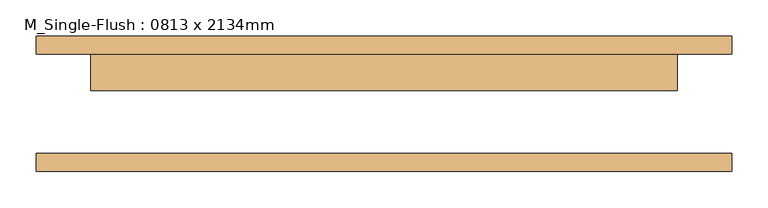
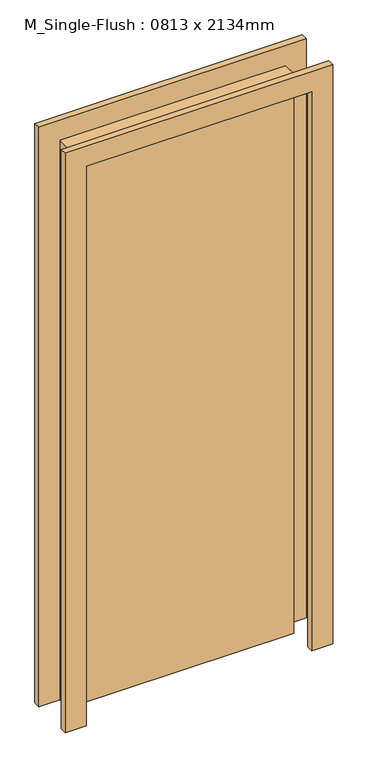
"""IFC4 building model written with IfcOpenShell, lengths in millimetres: door geometry, M_Single-Flush : 0813 x 2134mm."""

import ifcopenshell
import ifcopenshell.guid

model = None  # the IFC model being written
_history = None  # IfcOwnerHistory: only IFC2X3 demands one
_inside = {}  # id of a spatial element -> (the spatial element, [elements in it])
_under = {}  # id of a project, library or spatial element -> (it, [spatial elements below it])
_declared = {}  # id of a project -> (the project, [libraries it declares])
_typed = {}  # id of a type object -> (the type object, [elements of that type])
_made_of = {}  # id of a material, layer set ... -> (it, [elements and type objects made of it])


def new_model(schema):
    """Start an empty IFC model of exactly this schema.

    Asked for "IFC4X3", IfcOpenShell would pick the latest addendum, in which some entities
    have other attributes; the version numbers below select the first issue.
    IFC2X3 requires an IfcOwnerHistory on every rooted entity: one is made here for all.
    """
    global model, _history
    if schema == "IFC4X3":
        model = ifcopenshell.file(schema_version=(4, 3, 0, 0))
    else:
        model = ifcopenshell.file(schema=schema)
    _inside.clear()
    _under.clear()
    _declared.clear()
    _typed.clear()
    _made_of.clear()
    _history = None
    if model.schema == "IFC2X3":
        org = make("IfcOrganization", Name="unknown")
        user = make(
            "IfcPersonAndOrganization",
            ThePerson=make("IfcPerson", FamilyName="unknown"),
            TheOrganization=org,
        )
        app = make(
            "IfcApplication",
            ApplicationDeveloper=org,
            Version="unknown",
            ApplicationFullName="unknown",
            ApplicationIdentifier="unknown",
        )
        _history = make(
            "IfcOwnerHistory",
            OwningUser=user,
            OwningApplication=app,
            ChangeAction="ADDED",
            CreationDate=0,
        )
    return model


def make(cls, **values):
    """One entity of the class cls with the attributes given. An attribute that is None is left unset."""
    return model.create_entity(
        cls, **{name: value for name, value in values.items() if value is not None}
    )


def rooted(cls, **values):
    """An entity with a GlobalId (a new one), such as an element, a storey or a relation."""
    return make(cls, GlobalId=ifcopenshell.guid.new(), OwnerHistory=_history, **values)


def si_unit(unit_type, name, prefix=None):
    """IfcSIUnit, for example si_unit("LENGTHUNIT", "METRE", prefix="MILLI")."""
    return make("IfcSIUnit", UnitType=unit_type, Prefix=prefix, Name=name)


def assignment(units):
    """IfcUnitAssignment: the units of a project."""
    return None if units is None else make("IfcUnitAssignment", Units=units)


def point(xyz):
    """IfcCartesianPoint."""
    return None if xyz is None else make("IfcCartesianPoint", Coordinates=xyz)


def direction(xyz):
    """IfcDirection."""
    return None if xyz is None else make("IfcDirection", DirectionRatios=xyz)


def frame(location, z_axis=None, x_axis=None):
    """IfcAxis2Placement3D, a coordinate frame: its origin and axes. An axis left out is left unset."""
    return make(
        "IfcAxis2Placement3D",
        Location=point(location),
        Axis=direction(z_axis),
        RefDirection=direction(x_axis),
    )


def origin():
    """The frame at (0, 0, 0) with its axes left unset."""
    return frame((0.0, 0.0, 0.0))


def origin_with_axes():
    """The frame at (0, 0, 0) with the z axis (0, 0, 1) and the x axis (1, 0, 0) written out."""
    return frame((0.0, 0.0, 0.0), z_axis=(0.0, 0.0, 1.0), x_axis=(1.0, 0.0, 0.0))


def place(relative_to, where):
    """IfcLocalPlacement: puts the frame where relative to a parent placement (None: the world)."""
    return make(
        "IfcLocalPlacement", PlacementRelTo=relative_to, RelativePlacement=where
    )


def context(
    kind, dimensions, precision=None, world=None, true_north=None, identifier=None
):
    """IfcGeometricRepresentationContext, for example the 3D "Model" context."""
    return make(
        "IfcGeometricRepresentationContext",
        ContextIdentifier=identifier,
        ContextType=kind,
        CoordinateSpaceDimension=dimensions,
        Precision=precision,
        WorldCoordinateSystem=world,
        TrueNorth=true_north,
    )


def project(units=None, contexts=None):
    """IfcProject with its units and contexts."""
    return rooted(
        "IfcProject",
        Name="project",
        RepresentationContexts=contexts,
        UnitsInContext=assignment(units),
    )


def spatial(cls, under=None, at=None, **own):
    """A site, building, storey or space (cls), placed at a placement, below another one or the project."""
    s = rooted(cls, ObjectPlacement=at, **own)
    if under is not None:
        _under.setdefault(under.id(), (under, []))[1].append(s)
    return s


def polyline(points):
    """IfcPolyline through the points."""
    return make("IfcPolyline", Points=[point(p) for p in points])


def outline(outer, holes=None, kind="AREA"):
    """IfcArbitraryClosedProfileDef: a profile drawn as a closed curve; with holes, ...WithVoids."""
    if holes is None:
        return make("IfcArbitraryClosedProfileDef", ProfileType=kind, OuterCurve=outer)
    return make(
        "IfcArbitraryProfileDefWithVoids",
        ProfileType=kind,
        OuterCurve=outer,
        InnerCurves=holes,
    )


def extrude(swept, where, along, depth):
    """IfcExtrudedAreaSolid: the profile swept, set in the frame where, extruded along a direction by depth."""
    return make(
        "IfcExtrudedAreaSolid",
        SweptArea=swept,
        Position=where,
        ExtrudedDirection=direction(along),
        Depth=depth,
    )


def shape(context_of_items, identifier, shape_type, items):
    """IfcShapeRepresentation: the items that make up one representation, for example the "Body"."""
    return make(
        "IfcShapeRepresentation",
        ContextOfItems=context_of_items,
        RepresentationIdentifier=identifier,
        RepresentationType=shape_type,
        Items=items,
    )


def source(mapping_origin, context_of_items, identifier, shape_type, items):
    """IfcRepresentationMap: a shape defined once, which mapped items show again and again."""
    return make(
        "IfcRepresentationMap",
        MappingOrigin=mapping_origin,
        MappedRepresentation=shape(context_of_items, identifier, shape_type, items),
    )


def transform(
    local_origin,
    x_axis=None,
    y_axis=None,
    z_axis=None,
    scale=None,
    scale2=None,
    scale3=None,
    uniform=True,
):
    """IfcCartesianTransformationOperator3D, or its non-uniform kind. x_axis, y_axis, z_axis: its Axis1, 2, 3."""
    if uniform:
        return make(
            "IfcCartesianTransformationOperator3D",
            Axis1=direction(x_axis),
            Axis2=direction(y_axis),
            LocalOrigin=point(local_origin),
            Scale=scale,
            Axis3=direction(z_axis),
        )
    return make(
        "IfcCartesianTransformationOperator3DnonUniform",
        Axis1=direction(x_axis),
        Axis2=direction(y_axis),
        LocalOrigin=point(local_origin),
        Scale=scale,
        Axis3=direction(z_axis),
        Scale2=scale2,
        Scale3=scale3,
    )


def mapped(mapping_source, mapping_target):
    """IfcMappedItem: shows the shape of a source again, moved by a transform."""
    return make(
        "IfcMappedItem", MappingSource=mapping_source, MappingTarget=mapping_target
    )


def made_of(thing, what):
    """Note that an element or type object is made of a material, layer set ...; save() writes the relation."""
    if what is not None:
        _made_of.setdefault(what.id(), (what, []))[1].append(thing)
    return thing


def element(
    cls,
    number,
    at=None,
    inside=None,
    cuts=None,
    type_object=None,
    material=None,
    context=None,
    identifier="Body",
    shape_type=None,
    held_by="IfcProductDefinitionShape",
    body=None,
    shapes=None,
    **own,
):
    """One element of the class cls, such as IfcWall. Its Tag is "e" and its number.

    at: its placement. inside: the storey or other place that contains it. cuts: it is an
    opening in that element (IfcRelVoidsElement). A single representation is given by context,
    identifier, shape_type and body (its items); several are given by shapes. held_by: the class
    of the entity that holds the representations. save() writes the other relations.
    """
    e = rooted(cls, Tag="e%d" % number, ObjectPlacement=at, **own)
    if body is not None:
        shapes = [shape(context, identifier, shape_type, body)]
    if shapes is not None:
        e.Representation = make(held_by, Representations=shapes)
    if inside is not None:
        _inside.setdefault(inside.id(), (inside, []))[1].append(e)
    if cuts is not None:
        rooted(
            "IfcRelVoidsElement", RelatingBuildingElement=cuts, RelatedOpeningElement=e
        )
    if type_object is not None:
        _typed.setdefault(type_object.id(), (type_object, []))[1].append(e)
    return made_of(e, material)


def aggregate(whole, parts):
    """IfcRelAggregates: a whole, such as a stair, and the parts it consists of."""
    return rooted("IfcRelAggregates", RelatingObject=whole, RelatedObjects=parts)


def save(model, path):
    """Write the relations noted so far, then the file.

    IfcRelAggregates (storeys below a building ...), IfcRelContainedInSpatialStructure (elements
    in a storey), IfcRelDefinesByType, IfcRelAssociatesMaterial and IfcRelDeclares: one each for
    every whole, place, type object, material and project.
    """
    for whole, parts in _under.values():
        aggregate(whole, parts)
    for where, things in _inside.values():
        rooted(
            "IfcRelContainedInSpatialStructure",
            RelatedElements=things,
            RelatingStructure=where,
        )
    for kind, things in _typed.values():
        rooted("IfcRelDefinesByType", RelatedObjects=things, RelatingType=kind)
    for what, things in _made_of.values():
        rooted("IfcRelAssociatesMaterial", RelatedObjects=things, RelatingMaterial=what)
    for by, libraries in _declared.values():
        rooted("IfcRelDeclares", RelatingContext=by, RelatedDefinitions=libraries)
    model.write(path)


def m_single_flush_0813_x_2134mm_cfdfac75(model_context):
    return source(origin(), model_context, "Body", "SweptSolid", [
        extrude(outline(polyline([(2210.0, -482.5), (0.0, -482.5), (0.0, -406.5), (2134.0, -406.5), (2134.0, 406.5), (0.0, 406.5), (0.0, 482.5), (2210.0, 482.5), (2210.0, -482.5)])), frame((0.0, 69.25, 0.0), z_axis=(0.0, 1.0, 0.0), x_axis=(0.0, 0.0, 1.0)), (0.0, 0.0, 1.0), 25.0),
        extrude(outline(polyline([(2210.0, 482.5), (2210.0, -482.5), (0.0, -482.5), (0.0, -406.5), (2134.0, -406.5), (2134.0, 406.5), (0.0, 406.5), (0.0, 482.5), (2210.0, 482.5)])), frame((0.0, -94.25, 0.0), z_axis=(0.0, 1.0, 0.0), x_axis=(0.0, 0.0, 1.0)), (0.0, 0.0, 1.0), 25.0),
        extrude(outline(polyline([(406.5, 18.25), (-406.5, 18.25), (-406.5, 69.25), (406.5, 69.25), (406.5, 18.25)])), origin_with_axes(), (0.0, 0.0, 1.0), 2134.0),
    ])


if __name__ == "__main__":
    model = new_model("IFC4")
    model_context = context("Model", 3, world=origin())
    ifc_project = project(units=[si_unit("LENGTHUNIT", "METRE", prefix="MILLI")], contexts=[model_context])
    site = spatial("IfcSite", under=ifc_project)
    building = spatial("IfcBuilding", under=site)
    placement = place(None, origin())
    m_single_flush_0813_x_2134mm_shape = m_single_flush_0813_x_2134mm_cfdfac75(model_context)
    element("IfcDoor", 1, ObjectType="M_Single-Flush : 0813 x 2134mm", at=placement, inside=building, context=model_context, shape_type="MappedRepresentation", body=[
        mapped(m_single_flush_0813_x_2134mm_shape, transform((0.0, 0.0, 0.0), x_axis=(1.0, 0.0, 0.0), y_axis=(0.0, 1.0, 0.0), z_axis=(0.0, 0.0, 1.0))),
    ])
    save(model, "model.ifc")
